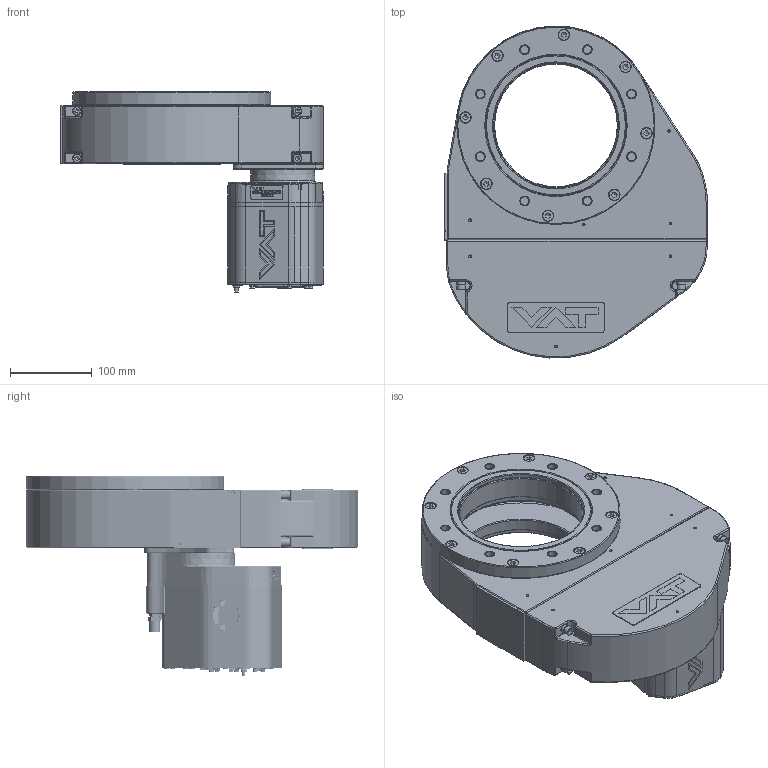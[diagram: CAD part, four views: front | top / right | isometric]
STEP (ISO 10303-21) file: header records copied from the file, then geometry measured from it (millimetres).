
FILE_DESCRIPTION(/* description */ (''),/* implementation_level */ '2;1');
FILE_NAME(/* name */ '1359237018_203.stp',/* time_stamp */ '2024-06-28T14:14:32+08:00',/* author */ (''),/* organization */ (''),/* preprocessor_version */ 'ST-DEVELOPER v19.3',/* originating_system */ 'SIEMENS PLM Software NX2212.6000',/* authorisation */ '');
FILE_SCHEMA (('AP203_CONFIGURATION_CONTROLLED_3D_DESIGN_OF_MECHANICAL_PARTS_AND_ASSEMBLIES_MIM_LF { 1 0 10303 403 2 1 2}'));
Products named in the file (53): 915542; 1062830; 1062211_37978ID; 1062217; n-6053-409.2; n-6171-408.1; 507510; 930887; 1062837; 1062205; 223868.1; 1062209; 1062215; 915758; 1062236_37858ID; 325243.3; 919322; n-6091-494.1; n-6005-441.1; 938726; N-7636-200.2; n-6090-308.1; n-6090-114; 974009; 259932_3.2; 259932_2.3; 259932_1.3; 259932_4.2; 904475; 1062241; 1062232; 736900; 877855; 207156.1; 206036.2; 965754; 444307; 974018; 958026; 366217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
Assembly tree (105 placements, depth 5):
  1297519
    228777  x8
    949709_NX-ARRAGMNTopen
      877855
      736900  x4
      1062237
        1062236_37858ID
      1062232
      1062241
      904475
    930837
    366217
    259932.6_NX-ARRAGMNTZUSAMMENST1
      259932_4.2
      259932_1.3
      259932_2.3
      259932_3.2
    958026  x2
    974015
      974009
      n-6090-114  x8
      n-6090-308.1  x4
      N-7636-200.2
      938726  x2
      n-6005-441.1  x2
      n-6091-494.1  x2
    919332
      919322
      n-6090-114  x8
    974018
    444307  x2
    965754
    930908
      325243.3  x4
      1062219
        915758
        1062215
      917030
        1062209
        1062214_MODEL
          1062211_37978ID
        325243.3  x4
        223868.1  x2
        1062205
        1062829
          1062830
          915542
        1062837
        930887  x6
        507510
        n-6171-408.1
        n-6053-409.2
        1062217
        1062215
    206036.2  x4
    207156.1  x4
Bounding box: 321 x 405.54 x 245 mm (x, y, z)
Volume: 6024407.6 mm3; surface area: 845219.7 mm2
Topology: 165 solids, 165 shells, 3011 faces, 7494 edges, 5025 vertices
Faces by surface type: plane 1626, cylinder 868, cone 226, torus 120, extrusion 97, bspline 49, sphere 25
Full cylindrical faces by diameter (mm): 0.7 x15, 1.1 x40, 2 x74, 2.5 x7, 2.9 x6, 3 x11, 3.2 x9, 3.25 x1, 3.26 x4, 3.3 x28, 3.5 x22, 3.96 x2, 4 x11, 4.02 x2, 4.05 x1, 4.16 x2, 4.2 x6, 4.3 x3, 4.4 x2, 4.5 x5, 4.725 x1, 4.8 x4, 4.96 x12, 4.991 x2, 5 x28, 5.075 x1, 5.1 x1, 5.165 x2, 5.9 x1, 5.991 x2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
Entity records: 80390 total; most frequent: CARTESIAN_POINT 17474, DIRECTION 10951, ORIENTED_EDGE 10712, EDGE_CURVE 5356, VERTEX_POINT 4045, AXIS2_PLACEMENT_3D 4043, EDGE_LOOP 3587, VECTOR 2865
